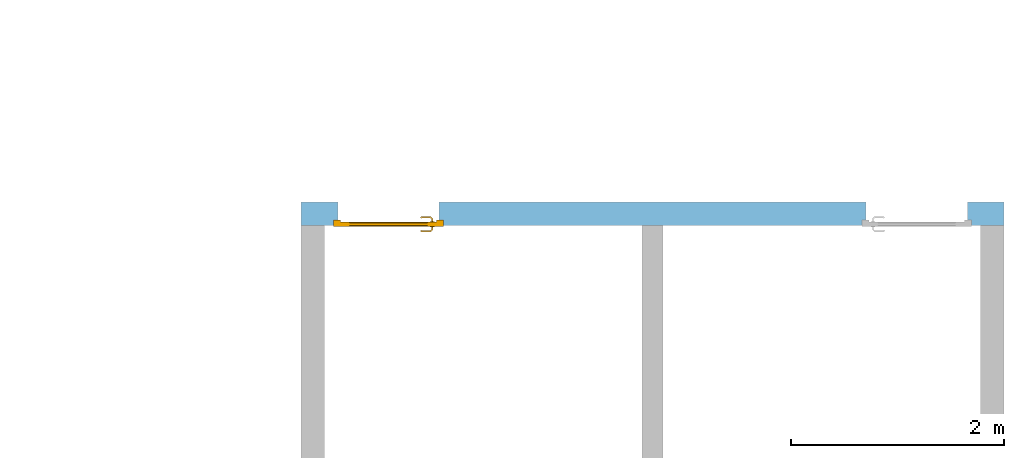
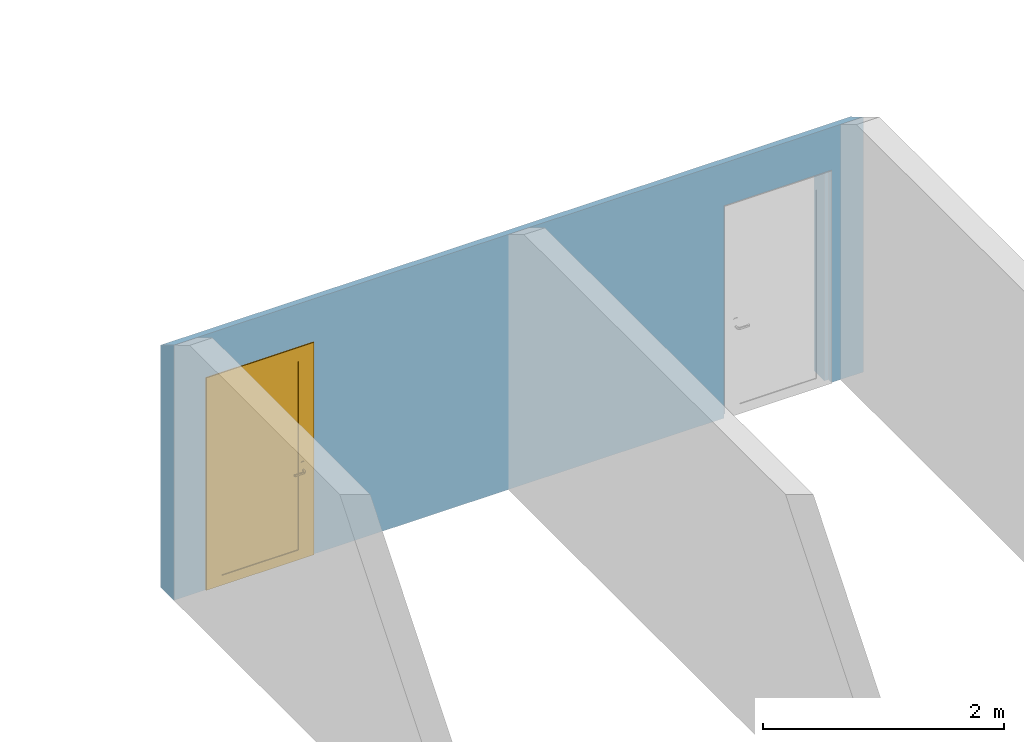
# One storey, part 7 of 12: 1 door, 2 openings, plus 1 element that does not belong to this part.
"""IFC2X3 building model written with IfcOpenShell, lengths in metres."""

from ifc_helpers import new_model, entity, si_unit, converted_unit, derived_unit, direction, frame, frame_2d, origin, place, context, subcontext, project, spatial, polyline, rectangle, extrude, clip, bounded_halfspace, faceted_brep, source, transform, mapped, material, material_list, layer, layer_set, layer_usage, type_object, type_shapes, element, fill, save


model = new_model("IFC2X3")

# Units and contexts
model_context = context("Model", 3, precision=1e-05, world=origin(), true_north=direction((6.12303176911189e-17, 1.0)))
context_of_model = context(None, 3, precision=1e-05, world=origin(), true_north=direction((6.12303176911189e-17, 1.0)))
body_context = subcontext(model_context, "Body", "Model", "MODEL_VIEW")
ifc_project = project(units=[si_unit("LENGTHUNIT", "METRE"), si_unit("AREAUNIT", "SQUARE_METRE"), si_unit("VOLUMEUNIT", "CUBIC_METRE"), converted_unit("PLANEANGLEUNIT", "DEGREE", entity("IfcRatioMeasure", 0.0174532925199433), si_unit("PLANEANGLEUNIT", "RADIAN"), dimensions=[0, 0, 0, 0, 0, 0, 0]), si_unit("MASSUNIT", "GRAM", prefix="KILO"), si_unit("TIMEUNIT", "SECOND"), si_unit("FREQUENCYUNIT", "HERTZ"), si_unit("THERMODYNAMICTEMPERATUREUNIT", "DEGREE_CELSIUS"), derived_unit("THERMALTRANSMITTANCEUNIT", [(si_unit("MASSUNIT", "GRAM", prefix="KILO"), 1), (si_unit("THERMODYNAMICTEMPERATUREUNIT", "KELVIN"), -1), (si_unit("TIMEUNIT", "SECOND"), -3)]), derived_unit("VOLUMETRICFLOWRATEUNIT", [(si_unit("LENGTHUNIT", "METRE"), 3), (si_unit("TIMEUNIT", "SECOND"), -1)]), si_unit("ELECTRICCURRENTUNIT", "AMPERE"), si_unit("ELECTRICVOLTAGEUNIT", "VOLT"), si_unit("POWERUNIT", "WATT"), si_unit("FORCEUNIT", "NEWTON", prefix="KILO"), si_unit("ILLUMINANCEUNIT", "LUX"), si_unit("LUMINOUSFLUXUNIT", "LUMEN"), si_unit("LUMINOUSINTENSITYUNIT", "CANDELA"), derived_unit("USERDEFINED", [(si_unit("MASSUNIT", "GRAM", prefix="KILO"), -1), (si_unit("LENGTHUNIT", "METRE"), -2), (si_unit("TIMEUNIT", "SECOND"), 3), (si_unit("LUMINOUSFLUXUNIT", "LUMEN"), 1)]), derived_unit("LINEARVELOCITYUNIT", [(si_unit("LENGTHUNIT", "METRE"), 1), (si_unit("TIMEUNIT", "SECOND"), -1)]), si_unit("PRESSUREUNIT", "PASCAL"), derived_unit("USERDEFINED", [(si_unit("LENGTHUNIT", "METRE"), -2), (si_unit("MASSUNIT", "GRAM", prefix="KILO"), 1), (si_unit("TIMEUNIT", "SECOND"), -2)])], contexts=[model_context, context_of_model])

# Site, building, storey
site_placement = place(None, origin())
site = spatial("IfcSite", under=ifc_project, at=site_placement, Name="Surface", CompositionType="ELEMENT")
building_placement = place(site_placement, origin())
building = spatial("IfcBuilding", under=site, at=building_placement, CompositionType="ELEMENT")
storey_placement = place(building_placement, origin())
storey = spatial("IfcBuildingStorey", under=building, at=storey_placement, Name="Rez de chaussée", CompositionType="ELEMENT", Elevation=0.0)

# Wall, openings, door
ifc_material_1 = material(Name="Maçonnerie - Enduit")
ifc_layer_1 = layer(ifc_material_1, 0.02)
ifc_material_2 = material(Name="Maçonnerie - Béton")
ifc_layer_2 = layer(ifc_material_2, 0.2)
ifc_layer_set = layer_set([ifc_layer_1, ifc_layer_2], Name="Mur de base:Ext.BBM + enduit 22")
ifc_layer_usage = layer_usage(ifc_layer_set, "AXIS2", "NEGATIVE", 0.11)
wall_type = type_object("IfcWallType", Name="Mur de base:Ext.BBM + enduit 22", PredefinedType="STANDARD", material=ifc_layer_set)
wall_placement = place(storey_placement, frame((-3.58506493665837, -14.0835833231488, 0.0)))
wall = element("IfcWallStandardCase", 1, at=wall_placement, inside=storey, type_object=wall_type, material=ifc_layer_usage, Name="Mur de base:Ext.BBM + enduit 22", ObjectType="Mur de base:Ext.BBM + enduit 22", context=body_context, shape_type="Clipping", body=[
    clip(extrude(rectangle(XDim=6.60000000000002, YDim=0.220000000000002, at=frame_2d((3.30000000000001, -2.70616862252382e-16), x_axis=(-1.0, 0.0))), origin(), (0.0, 0.0, 1.0), 2.58218933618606), bounded_halfspace(frame((0.0, -0.109999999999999, 2.58218933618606), z_axis=(0.0, 0.515038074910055, 0.857167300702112), x_axis=(-1.0, 0.0, 0.0)), False, frame((0.0, -0.109999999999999, 2.58218933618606)), polyline([(0.0, 0.0), (0.22, 0.0), (3.2, 0.0), (3.4, 0.0), (6.38000000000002, 0.0), (6.60000000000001, 0.0), (6.60000000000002, 0.219999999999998), (0.0, 0.22), (0.0, 0.0)]))),
])
opening_1_placement = place(wall_placement, frame((0.305000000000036, -0.410000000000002, 0.0)))
opening_1 = element("IfcOpeningElement", 2, at=opening_1_placement, cuts=wall, Name="Mur de base:Ext.BBM + enduit 22", ObjectType="Opening", context=body_context, shape_type="Brep", body=[
    faceted_brep([(0.98999999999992, 0.820000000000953, 2.11000000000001), (0.0400000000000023, 0.820000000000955, 2.11000000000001), (0.0400000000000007, 0.350000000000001, 2.11000000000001), (0.989999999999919, 0.349999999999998, 2.11000000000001), (0.0400000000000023, 0.820000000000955, 0.0), (0.98999999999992, 0.820000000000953, 0.0), (0.989999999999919, 0.349999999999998, 0.0), (1.02999999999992, 0.349999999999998, 0.0), (1.02999999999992, 0.299999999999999, 0.0), (0.989999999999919, 0.299999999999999, 0.0), (0.989999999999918, 0.0, 0.0), (0.0399999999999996, 0.0, 0.0), (0.0400000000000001, 0.300000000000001, 0.0), (0.0, 0.300000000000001, 0.0), (0.0, 0.350000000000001, 0.0), (0.0400000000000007, 0.350000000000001, 0.0), (0.989999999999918, 0.0, 2.11000000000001), (0.0399999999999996, 0.0, 2.11000000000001), (1.02999999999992, 0.299999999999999, 2.15000000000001), (0.0, 0.300000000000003, 2.15000000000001), (0.0400000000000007, 0.300000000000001, 2.11000000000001), (0.989999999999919, 0.299999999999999, 2.11000000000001), (1.02999999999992, 0.349999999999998, 2.15000000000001), (0.0, 0.350000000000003, 2.15000000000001)], [[[0, 1, 2, 3]], [[4, 5, 6, 7, 8, 9, 10, 11, 12, 13, 14, 15]], [[1, 0, 5, 4]], [[5, 0, 3, 6]], [[16, 17, 11, 10]], [[1, 4, 15, 2]], [[9, 8, 18, 19, 13, 12, 20, 21]], [[8, 7, 22, 18]], [[7, 6, 3, 2, 15, 14, 23, 22]], [[19, 18, 22, 23]], [[13, 19, 23, 14]], [[11, 17, 20, 12]], [[16, 10, 9, 21]], [[17, 16, 21, 20]]]),
])
opening_2_placement = place(wall_placement, frame((5.26500000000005, -0.41000000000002, 0.0)))
element("IfcOpeningElement", 3, at=opening_2_placement, cuts=wall, Name="Mur de base:Ext.BBM + enduit 22", ObjectType="Opening", context=body_context, shape_type="Brep", body=[
    faceted_brep([(0.989999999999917, 0.0, 2.11000000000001), (0.989999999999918, 0.299999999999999, 2.11000000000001), (0.0399999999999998, 0.300000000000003, 2.11000000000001), (0.039999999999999, 0.0, 2.11000000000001), (0.98999999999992, 0.820000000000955, 0.0), (0.989999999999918, 0.350000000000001, 0.0), (1.02999999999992, 0.349999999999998, 0.0), (1.02999999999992, 0.299999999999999, 0.0), (0.989999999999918, 0.299999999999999, 0.0), (0.989999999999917, 0.0, 0.0), (0.039999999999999, 0.0, 0.0), (0.0399999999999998, 0.300000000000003, 0.0), (0.0, 0.300000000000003, 0.0), (0.0, 0.350000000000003, 0.0), (0.0399999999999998, 0.350000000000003, 0.0), (0.0400000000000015, 0.820000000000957, 0.0), (0.98999999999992, 0.820000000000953, 2.11000000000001), (0.0400000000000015, 0.820000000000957, 2.11000000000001), (0.989999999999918, 0.350000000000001, 2.11000000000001), (1.02999999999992, 0.299999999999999, 2.15000000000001), (0.0, 0.300000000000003, 2.15000000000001), (0.0, 0.350000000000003, 2.15000000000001), (1.02999999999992, 0.349999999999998, 2.15000000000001), (0.0399999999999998, 0.350000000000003, 2.11000000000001)], [[[0, 1, 2, 3]], [[4, 5, 6, 7, 8, 9, 10, 11, 12, 13, 14, 15]], [[16, 4, 15, 17]], [[3, 2, 11, 10]], [[3, 10, 9, 0]], [[16, 18, 5, 4]], [[11, 2, 1, 8, 7, 19, 20, 12]], [[12, 20, 21, 13]], [[13, 21, 22, 6, 5, 18, 23, 14]], [[19, 22, 21, 20]], [[7, 6, 22, 19]], [[9, 8, 1, 0]], [[15, 14, 23, 17]], [[17, 23, 18, 16]]]),
])
ifc_material_3 = material(Name="Poignée PVC")
ifc_material_4 = material(Name="PVC Blanc")
ifc_material_list_1 = material_list([ifc_material_3, ifc_material_4])
ifc_material_list_2 = material_list([ifc_material_3, ifc_material_4])
door_style = type_object("IfcDoorStyle", Name="93 x 210 - (90)", ConstructionType="NOTDEFINED", OperationType="SINGLE_SWING_RIGHT", ParameterTakesPrecedence=False, Sizeable=False, material=ifc_material_list_2)
shared_shape = source(origin(), body_context, "Body", "Brep", [
    faceted_brep([(0.927025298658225, -0.27258714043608, 0.907780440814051), (0.922974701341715, -0.27258714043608, 0.907780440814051), (0.918999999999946, -0.27258714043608, 0.90699999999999), (0.918999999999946, -0.27258714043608, 0.89300000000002), (0.922974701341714, -0.27258714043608, 0.892219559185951), (0.927025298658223, -0.27258714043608, 0.892219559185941), (0.930999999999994, -0.27258714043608, 0.892999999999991), (0.930999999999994, -0.27258714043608, 0.90699999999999), (0.918999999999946, -0.250101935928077, 0.90699999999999), (0.918999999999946, -0.250101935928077, 0.89300000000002), (0.922974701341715, -0.248455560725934, 0.907780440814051), (0.927025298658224, -0.246777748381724, 0.907780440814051), (0.910838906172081, -0.230591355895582, 0.907780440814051), (0.909161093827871, -0.234641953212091, 0.907780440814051), (0.825793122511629, -0.234641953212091, 0.907780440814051), (0.824115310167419, -0.230591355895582, 0.907780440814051), (0.81645104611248, -0.238255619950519, 0.907780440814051), (0.819315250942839, -0.241119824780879, 0.907780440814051), (0.930999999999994, -0.24513137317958, 0.90699999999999), (0.930999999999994, -0.24513137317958, 0.892999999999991), (0.927025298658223, -0.246777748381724, 0.892219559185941), (0.922974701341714, -0.248455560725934, 0.892219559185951), (0.90916109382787, -0.234641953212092, 0.892219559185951), (0.910838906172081, -0.230591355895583, 0.892219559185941), (0.824115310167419, -0.230591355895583, 0.89221955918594), (0.825793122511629, -0.234641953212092, 0.89221955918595), (0.81931525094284, -0.24111982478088, 0.89221955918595), (0.816451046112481, -0.23825561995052, 0.89221955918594), (0.907514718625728, -0.23861665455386, 0.89300000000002), (0.907514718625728, -0.23861665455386, 0.90699999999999), (0.912485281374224, -0.226616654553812, 0.90699999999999), (0.912485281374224, -0.226616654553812, 0.892999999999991), (0.86747710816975, -0.23861665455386, 0.90699999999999), (0.827439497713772, -0.23861665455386, 0.90699999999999), (0.827439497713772, -0.23861665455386, 0.89300000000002), (0.86747710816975, -0.23861665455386, 0.89300000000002), (0.867477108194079, -0.232462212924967, 0.907878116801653), (0.862399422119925, -0.226616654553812, 0.90699999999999), (0.822468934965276, -0.226616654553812, 0.90699999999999), (0.872554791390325, -0.226616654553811, 0.892999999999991), (0.822468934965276, -0.226616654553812, 0.892999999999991), (0.86747710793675, -0.232462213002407, 0.892121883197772), (0.813640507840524, -0.235445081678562, 0.90699999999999), (0.813640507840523, -0.235445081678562, 0.892999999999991), (0.822125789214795, -0.243930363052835, 0.89300000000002), (0.822125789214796, -0.243930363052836, 0.90699999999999)], [[[0, 1, 2, 3, 4, 5, 6, 7]], [[8, 9, 3, 2]], [[1, 10, 8, 2]], [[1, 0, 11, 12, 13, 10]], [[14, 15, 16, 17]], [[7, 18, 11, 0]], [[18, 7, 6, 19]], [[6, 5, 20, 19]], [[5, 4, 21, 22, 23, 20]], [[24, 25, 26, 27]], [[4, 3, 9, 21]], [[28, 9, 8, 29]], [[8, 10, 13, 29]], [[18, 30, 12, 11]], [[31, 30, 18, 19]], [[19, 20, 23, 31]], [[21, 9, 28, 22]], [[28, 29, 32, 33, 34, 35]], [[36, 32, 13]], [[37, 38, 15]], [[37, 12, 30]], [[36, 12, 37]], [[14, 32, 36]], [[36, 15, 14]], [[29, 13, 32]], [[32, 14, 33]], [[12, 36, 13]], [[15, 36, 37]], [[30, 31, 39, 40, 38, 37]], [[23, 41, 39]], [[24, 39, 41]], [[39, 31, 23]], [[39, 24, 40]], [[22, 35, 41]], [[41, 23, 22]], [[41, 35, 25]], [[35, 22, 28]], [[34, 25, 35]], [[24, 41, 25]], [[17, 16, 42, 43, 27, 26, 44, 45]], [[44, 34, 33, 45]], [[33, 14, 17, 45]], [[15, 38, 42, 16]], [[42, 38, 40, 43]], [[24, 27, 43, 40]], [[34, 44, 26, 25]]]),
    faceted_brep([(0.922974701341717, -0.32258714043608, 0.907780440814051), (0.927025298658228, -0.32258714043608, 0.907780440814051), (0.930999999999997, -0.32258714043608, 0.906999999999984), (0.930999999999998, -0.32258714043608, 0.892999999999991), (0.927025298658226, -0.32258714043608, 0.892219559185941), (0.922974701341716, -0.32258714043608, 0.89221955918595), (0.918999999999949, -0.32258714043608, 0.893000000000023), (0.918999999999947, -0.32258714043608, 0.90699999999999), (0.927025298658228, -0.348591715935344, 0.907780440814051), (0.930999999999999, -0.350238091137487, 0.906999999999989), (0.922974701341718, -0.346913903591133, 0.907780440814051), (0.909298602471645, -0.360590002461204, 0.907780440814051), (0.910976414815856, -0.364640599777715, 0.907780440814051), (0.824142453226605, -0.364640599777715, 0.90778044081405), (0.825820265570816, -0.360590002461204, 0.90778044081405), (0.819342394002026, -0.354112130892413, 0.90778044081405), (0.816478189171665, -0.356976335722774, 0.90778044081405), (0.918999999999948, -0.345267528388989, 0.90699999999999), (0.918999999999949, -0.34526752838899, 0.893000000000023), (0.922974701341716, -0.346913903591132, 0.89221955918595), (0.927025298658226, -0.348591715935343, 0.89221955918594), (0.910976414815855, -0.364640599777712, 0.89221955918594), (0.909298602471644, -0.360590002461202, 0.89221955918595), (0.825820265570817, -0.360590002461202, 0.89221955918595), (0.824142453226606, -0.364640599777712, 0.89221955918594), (0.816478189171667, -0.356976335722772, 0.89221955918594), (0.819342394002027, -0.354112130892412, 0.89221955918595), (0.930999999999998, -0.350238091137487, 0.892999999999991), (0.912622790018, -0.368615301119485, 0.906999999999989), (0.907652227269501, -0.356615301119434, 0.90699999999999), (0.907652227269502, -0.356615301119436, 0.893000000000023), (0.912622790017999, -0.368615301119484, 0.892999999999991), (0.86755943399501, -0.362769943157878, 0.907878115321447), (0.872692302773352, -0.368615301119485, 0.906999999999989), (0.822496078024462, -0.368615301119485, 0.906999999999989), (0.867559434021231, -0.356615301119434, 0.90699999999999), (0.82746664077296, -0.356615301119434, 0.906999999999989), (0.867559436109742, -0.356615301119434, 0.893000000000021), (0.82746664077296, -0.356615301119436, 0.893000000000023), (0.867559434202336, -0.362769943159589, 0.892121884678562), (0.862426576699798, -0.368615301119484, 0.892999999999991), (0.822496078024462, -0.368615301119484, 0.892999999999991), (0.822152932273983, -0.351301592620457, 0.89300000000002), (0.813667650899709, -0.359786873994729, 0.892999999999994), (0.813667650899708, -0.35978687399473, 0.906999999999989), (0.822152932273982, -0.351301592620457, 0.906999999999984)], [[[0, 1, 2, 3, 4, 5, 6, 7]], [[2, 1, 8, 9]], [[1, 0, 10, 11, 12, 8]], [[13, 14, 15, 16]], [[0, 7, 17, 10]], [[18, 17, 7, 6]], [[5, 19, 18, 6]], [[5, 4, 20, 21, 22, 19]], [[23, 24, 25, 26]], [[3, 27, 20, 4]], [[9, 27, 3, 2]], [[9, 8, 12, 28]], [[10, 17, 29, 11]], [[30, 29, 17, 18]], [[18, 19, 22, 30]], [[20, 27, 31, 21]], [[28, 31, 27, 9]], [[12, 32, 33]], [[13, 33, 32]], [[33, 28, 12]], [[33, 13, 34]], [[11, 35, 32]], [[32, 12, 11]], [[32, 35, 14]], [[35, 11, 29]], [[36, 14, 35]], [[13, 32, 14]], [[30, 37, 38, 36, 35, 29]], [[39, 37, 22]], [[40, 41, 24]], [[40, 21, 31]], [[39, 21, 40]], [[23, 37, 39]], [[39, 24, 23]], [[30, 22, 37]], [[37, 23, 38]], [[21, 39, 22]], [[24, 39, 40]], [[31, 28, 33, 34, 41, 40]], [[42, 26, 25, 43, 44, 16, 15, 45]], [[13, 16, 44, 34]], [[36, 45, 15, 14]], [[42, 45, 36, 38]], [[38, 23, 26, 42]], [[24, 41, 43, 25]], [[44, 43, 41, 34]]]),
    faceted_brep([(0.944999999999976, -0.27758714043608, 0.770000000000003), (0.944999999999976, -0.27758714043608, 0.980000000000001), (0.935352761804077, -0.27758714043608, 0.983996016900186), (0.924999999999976, -0.27758714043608, 0.985358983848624), (0.914647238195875, -0.27758714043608, 0.983996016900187), (0.904999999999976, -0.27758714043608, 0.980000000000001), (0.904999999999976, -0.27758714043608, 0.770000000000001), (0.914647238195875, -0.27758714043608, 0.766003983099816), (0.924999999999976, -0.27758714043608, 0.764641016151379), (0.935352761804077, -0.27758714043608, 0.766003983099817), (0.924999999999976, -0.27258714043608, 0.985358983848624), (0.935352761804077, -0.27258714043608, 0.983996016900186), (0.944999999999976, -0.27258714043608, 0.980000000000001), (0.944999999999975, -0.27258714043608, 0.770000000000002), (0.935352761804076, -0.27258714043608, 0.766003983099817), (0.924999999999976, -0.27258714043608, 0.764641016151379), (0.914647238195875, -0.27258714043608, 0.766003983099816), (0.904999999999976, -0.27258714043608, 0.770000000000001), (0.904999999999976, -0.27258714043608, 0.980000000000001), (0.914647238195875, -0.27258714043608, 0.983996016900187)], [[[0, 1, 2, 3, 4, 5, 6, 7, 8, 9]], [[10, 11, 12, 13, 14, 15, 16, 17, 18, 19]], [[4, 19, 18, 5]], [[3, 10, 19, 4]], [[2, 11, 10, 3]], [[2, 1, 12, 11]], [[12, 1, 0, 13]], [[9, 14, 13, 0]], [[8, 15, 14, 9]], [[7, 16, 15, 8]], [[7, 6, 17, 16]], [[17, 6, 5, 18]]]),
    faceted_brep([(0.924999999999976, -0.32258714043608, 0.764641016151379), (0.935352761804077, -0.32258714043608, 0.766003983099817), (0.944999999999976, -0.32258714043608, 0.770000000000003), (0.944999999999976, -0.32258714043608, 0.980000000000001), (0.935352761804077, -0.32258714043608, 0.983996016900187), (0.924999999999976, -0.32258714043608, 0.985358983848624), (0.914647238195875, -0.32258714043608, 0.983996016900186), (0.904999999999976, -0.32258714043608, 0.980000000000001), (0.904999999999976, -0.32258714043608, 0.770000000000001), (0.914647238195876, -0.32258714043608, 0.766003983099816), (0.944999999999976, -0.31758714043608, 0.980000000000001), (0.944999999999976, -0.31758714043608, 0.770000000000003), (0.935352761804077, -0.31758714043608, 0.766003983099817), (0.924999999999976, -0.31758714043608, 0.764641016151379), (0.914647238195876, -0.31758714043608, 0.766003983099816), (0.904999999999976, -0.31758714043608, 0.770000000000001), (0.904999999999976, -0.31758714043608, 0.980000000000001), (0.914647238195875, -0.31758714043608, 0.983996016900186), (0.924999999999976, -0.31758714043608, 0.985358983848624), (0.935352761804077, -0.31758714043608, 0.983996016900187)], [[[0, 1, 2, 3, 4, 5, 6, 7, 8, 9]], [[10, 11, 12, 13, 14, 15, 16, 17, 18, 19]], [[1, 12, 11, 2]], [[0, 13, 12, 1]], [[9, 14, 13, 0]], [[9, 8, 15, 14]], [[15, 8, 7, 16]], [[6, 17, 16, 7]], [[5, 18, 17, 6]], [[4, 19, 18, 5]], [[4, 3, 10, 19]], [[10, 3, 2, 11]]]),
    faceted_brep([(1.02999999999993, -0.31758714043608, 0.0), (0.979999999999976, -0.31758714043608, 0.0), (0.979999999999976, -0.27758714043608, 0.0), (0.964999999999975, -0.27758714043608, 0.0), (0.964999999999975, -0.25758714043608, 0.0), (1.02999999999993, -0.25758714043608, 0.0), (1.02999999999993, -0.25758714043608, 2.15000000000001), (1.02999999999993, -0.31758714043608, 2.15000000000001), (0.964999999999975, -0.25758714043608, 2.08500000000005), (0.0649999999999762, -0.25758714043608, 2.08500000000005), (0.0649999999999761, -0.25758714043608, 0.0), (0.0, -0.25758714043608, 0.0), (0.0, -0.25758714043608, 2.15000000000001), (0.964999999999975, -0.27758714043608, 2.08500000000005), (0.979999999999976, -0.27758714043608, 2.10000000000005), (0.0499999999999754, -0.27758714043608, 2.10000000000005), (0.0499999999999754, -0.27758714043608, 0.0), (0.0649999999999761, -0.27758714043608, 0.0), (0.0649999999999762, -0.27758714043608, 2.08500000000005), (0.979999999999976, -0.31758714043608, 2.10000000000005), (0.0, -0.31758714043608, 2.15000000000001), (0.0, -0.31758714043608, 0.0), (0.0499999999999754, -0.31758714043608, 0.0), (0.0499999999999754, -0.31758714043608, 2.10000000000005)], [[[0, 1, 2, 3, 4, 5]], [[5, 6, 7, 0]], [[4, 8, 9, 10, 11, 12, 6, 5]], [[3, 13, 8, 4]], [[2, 14, 15, 16, 17, 18, 13, 3]], [[1, 19, 14, 2]], [[0, 7, 20, 21, 22, 23, 19, 1]], [[11, 21, 20, 12]], [[10, 17, 16, 22, 21, 11]], [[9, 18, 17, 10]], [[15, 23, 22, 16]], [[6, 12, 20, 7]], [[8, 13, 18, 9]], [[14, 19, 23, 15]]]),
    faceted_brep([(0.979999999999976, -0.31758714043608, 2.10000000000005), (0.0499999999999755, -0.31758714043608, 2.10000000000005), (0.0499999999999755, -0.31758714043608, 0.0), (0.979999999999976, -0.31758714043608, 0.0), (0.149999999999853, -0.31758714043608, 2.01000000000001), (0.879999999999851, -0.31758714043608, 2.01000000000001), (0.879999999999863, -0.31758714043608, 0.0999999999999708), (0.149999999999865, -0.31758714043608, 0.0999999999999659), (0.979999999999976, -0.27758714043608, 2.10000000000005), (0.979999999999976, -0.27758714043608, 0.0), (0.0499999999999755, -0.27758714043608, 0.0), (0.0499999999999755, -0.27758714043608, 2.10000000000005), (0.879999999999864, -0.27758714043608, 2.01000000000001), (0.149999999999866, -0.27758714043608, 2.01000000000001), (0.149999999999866, -0.27758714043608, 0.100000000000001), (0.879999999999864, -0.27758714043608, 0.100000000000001), (0.149999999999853, -0.30958714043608, 2.01000000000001), (0.149999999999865, -0.30958714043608, 0.0999999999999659), (0.879999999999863, -0.30958714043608, 0.0999999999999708), (0.879999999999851, -0.30958714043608, 2.01000000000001), (0.879999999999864, -0.28558714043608, 2.01000000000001), (0.879999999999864, -0.28558714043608, 0.100000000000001), (0.149999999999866, -0.28558714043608, 0.100000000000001), (0.149999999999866, -0.28558714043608, 2.01000000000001)], [[[0, 1, 2, 3], [4, 5, 6, 7]], [[8, 9, 10, 11], [12, 13, 14, 15]], [[3, 9, 8, 0]], [[2, 10, 9, 3]], [[1, 11, 10, 2]], [[0, 8, 11, 1]], [[16, 17, 18, 19]], [[16, 4, 7, 17]], [[17, 7, 6, 18]], [[18, 6, 5, 19]], [[19, 5, 4, 16]], [[20, 21, 22, 23]], [[20, 12, 15, 21]], [[21, 15, 14, 22]], [[22, 14, 13, 23]], [[23, 13, 12, 20]]]),
])
type_shapes(door_style, [shared_shape])
door_placement = place(opening_1_placement, frame((0.0, 0.607587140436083, 0.0)))
door = element("IfcDoor", 4, at=door_placement, inside=storey, type_object=door_style, material=ifc_material_list_1, Name="FR_PVC Panneau Plein:93 x 210 - (90)", ObjectType="93 x 210 - (90)", OverallHeight=2.15000000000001, OverallWidth=1.02999999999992, context=body_context, shape_type="MappedRepresentation", body=[
    mapped(shared_shape, transform((0.0, 0.0, 0.0), scale=1.0)),
])
fill(opening_1, door)

save(model, "model.ifc")
